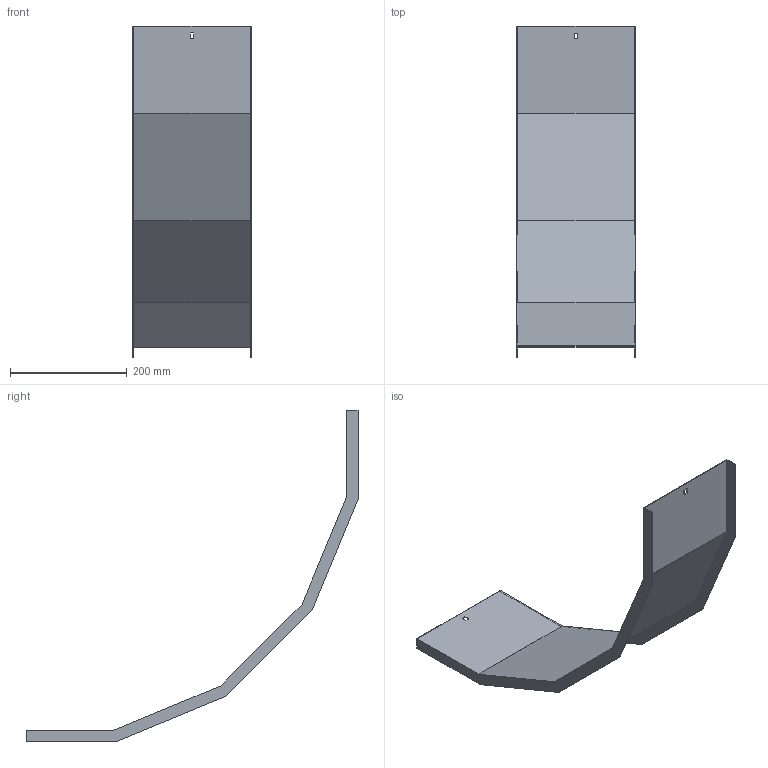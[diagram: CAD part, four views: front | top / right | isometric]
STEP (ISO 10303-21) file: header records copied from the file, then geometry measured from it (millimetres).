
FILE_DESCRIPTION (( 'STEP AP214' ), '1' );
FILE_NAME ('B2X30N5R200X.step', '2025-03-20T09:47:27', ( '' ), ( '' ), 'SwSTEP 2.0', 'SolidWorks 2023', '' );
FILE_SCHEMA (( 'AUTOMOTIVE_DESIGN' ));
Length unit declared in the file: millimetre
Products named in the file (1): B2X30N5R200X
Bounding box: 203 x 569.92 x 569.92 mm (x, y, z)
Volume: 323589.3 mm3; surface area: 435044.4 mm2
Topology: 1 solids, 1 shells, 34 faces, 96 edges, 64 vertices
Faces by surface type: plane 34
Entity records: 1111 total; most frequent: CARTESIAN_POINT 195, ORIENTED_EDGE 192, DIRECTION 166, VECTOR 96, EDGE_CURVE 96, LINE 96, VERTEX_POINT 64, EDGE_LOOP 38
